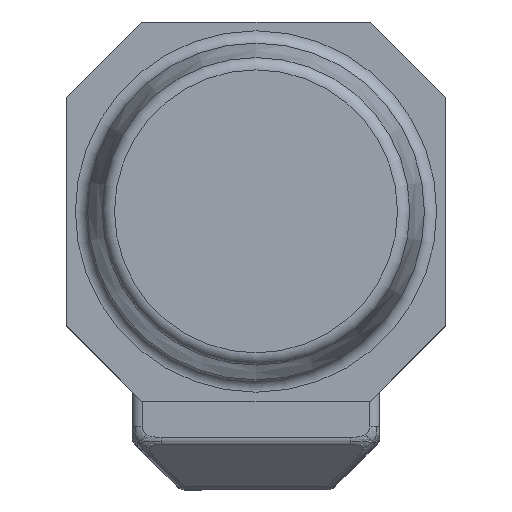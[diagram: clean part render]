
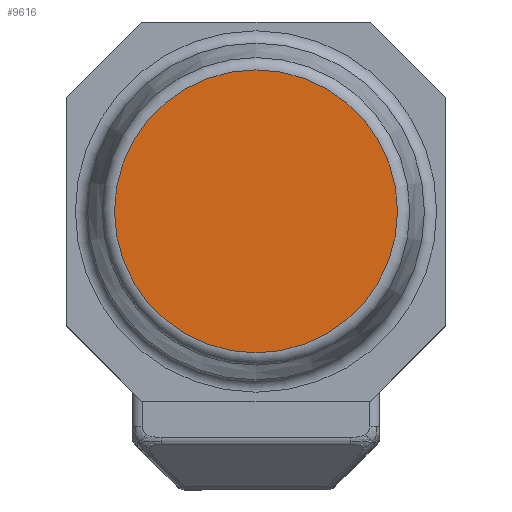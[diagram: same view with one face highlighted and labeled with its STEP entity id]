
A CAD part, top view. The second image highlights one B-rep face of the part: STEP entity #9616.
In plain terms, the highlighted planar face has unit normal (0, 0, 1) as drawn and (1, 0, 0) by its records, which use the part's own axes.
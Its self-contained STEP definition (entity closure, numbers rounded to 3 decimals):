
#9593=CARTESIAN_POINT('',(265.0,0.0,55.983));
#9594=VERTEX_POINT('',#9593);
#9595=CARTESIAN_POINT('',(265.0,0.0,0.0));
#9596=DIRECTION('',(-1.0,0.0,0.0));
#9597=DIRECTION('',(0.0,0.0,-1.0));
#9598=AXIS2_PLACEMENT_3D('',#9595,#9596,#9597);
#9599=CIRCLE('',#9598,55.983);
#9600=EDGE_CURVE('',#9594,#9594,#9599,.T.);
#9608=CARTESIAN_POINT('',(265.0,0.0,30.0));
#9609=DIRECTION('',(1.0,0.0,0.0));
#9610=DIRECTION('',(0.0,0.0,-1.0));
#9611=AXIS2_PLACEMENT_3D('',#9608,#9609,#9610);
#9612=PLANE('',#9611);
#9613=ORIENTED_EDGE('',*,*,#9600,.F.);
#9614=EDGE_LOOP('',(#9613));
#9615=FACE_OUTER_BOUND('',#9614,.T.);
#9616=ADVANCED_FACE('',(#9615),#9612,.T.);
